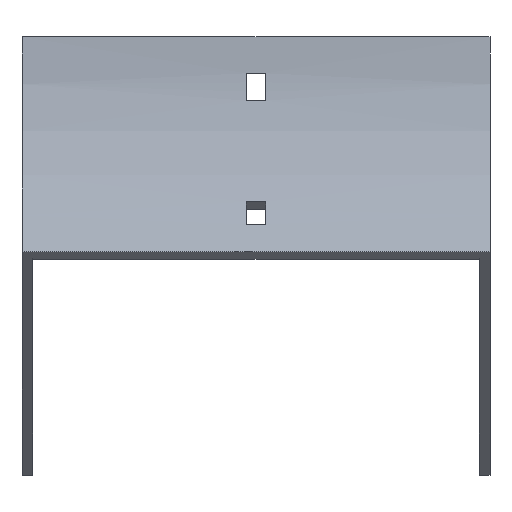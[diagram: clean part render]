
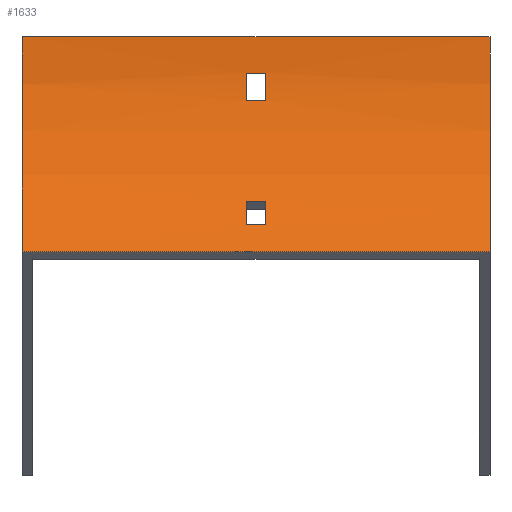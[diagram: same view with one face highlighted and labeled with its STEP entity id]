
A CAD part, front view. The second image highlights one B-rep face of the part: STEP entity #1633.
In plain terms, the highlighted cylindrical face has radius 100 mm (diameter 200 mm), a partial arc.
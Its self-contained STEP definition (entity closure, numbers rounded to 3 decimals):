
#17 = VERTEX_POINT ( 'NONE', #381 ) ;
#24 = CARTESIAN_POINT ( 'NONE',  ( 3.25, -16.017, -54.285 ) ) ;
#26 = DIRECTION ( 'NONE',  ( 0., 0., 1. ) ) ;
#28 = EDGE_LOOP ( 'NONE', ( #1114, #1668, #993, #631 ) ) ;
#49 = LINE ( 'NONE', #1105, #1319 ) ;
#53 = DIRECTION ( 'NONE',  ( -1., 0., 0. ) ) ;
#91 = VECTOR ( 'NONE', #442, 1000. ) ;
#117 = AXIS2_PLACEMENT_3D ( 'NONE', #992, #53, #26 ) ;
#160 = AXIS2_PLACEMENT_3D ( 'NONE', #1165, #1670, #1652 ) ;
#172 = DIRECTION ( 'NONE',  ( 0., 0., 1. ) ) ;
#178 = DIRECTION ( 'NONE',  ( 0., 0., 1. ) ) ;
#182 = CARTESIAN_POINT ( 'NONE',  ( -3.25, -0.723, -12. ) ) ;
#183 = EDGE_CURVE ( 'NONE', #902, #579, #327, .T. ) ;
#190 = VECTOR ( 'NONE', #434, 1000. ) ;
#198 = EDGE_LOOP ( 'NONE', ( #207, #1325, #739, #1233 ) ) ;
#207 = ORIENTED_EDGE ( 'NONE', *, *, #379, .T. ) ;
#209 = FACE_BOUND ( 'NONE', #28, .T. ) ;
#216 = CYLINDRICAL_SURFACE ( 'NONE', #1272, 100. ) ;
#258 = EDGE_CURVE ( 'NONE', #1256, #1393, #49, .T. ) ;
#275 = VECTOR ( 'NONE', #941, 1000. ) ;
#281 = ORIENTED_EDGE ( 'NONE', *, *, #258, .F. ) ;
#297 = CARTESIAN_POINT ( 'NONE',  ( 77., -29.289, -70.711 ) ) ;
#327 = CIRCLE ( 'NONE', #160, 100. ) ;
#331 = AXIS2_PLACEMENT_3D ( 'NONE', #603, #1505, #753 ) ;
#340 = DIRECTION ( 'NONE',  ( -1., 0., 0. ) ) ;
#348 = FACE_BOUND ( 'NONE', #861, .T. ) ;
#355 = CARTESIAN_POINT ( 'NONE',  ( 3.25, -2.23, -21. ) ) ;
#379 = EDGE_CURVE ( 'NONE', #497, #17, #1321, .T. ) ;
#381 = CARTESIAN_POINT ( 'NONE',  ( -77., -29.289, -70.711 ) ) ;
#388 = VECTOR ( 'NONE', #1356, 1000. ) ;
#400 = EDGE_CURVE ( 'NONE', #837, #17, #843, .T. ) ;
#406 = LINE ( 'NONE', #1469, #275 ) ;
#421 = CARTESIAN_POINT ( 'NONE',  ( 77., -100., 0. ) ) ;
#434 = DIRECTION ( 'NONE',  ( -1., 0., 0. ) ) ;
#440 = CARTESIAN_POINT ( 'NONE',  ( 77., -100., 0. ) ) ;
#442 = DIRECTION ( 'NONE',  ( -1., 0., 0. ) ) ;
#451 = DIRECTION ( 'NONE',  ( 0., 0., -1. ) ) ;
#489 = CARTESIAN_POINT ( 'NONE',  ( -3.25, -16.017, -54.285 ) ) ;
#497 = VERTEX_POINT ( 'NONE', #1169 ) ;
#535 = VERTEX_POINT ( 'NONE', #489 ) ;
#539 = LINE ( 'NONE', #1612, #91 ) ;
#579 = VERTEX_POINT ( 'NONE', #355 ) ;
#587 = DIRECTION ( 'NONE',  ( -1., 0., 0. ) ) ;
#603 = CARTESIAN_POINT ( 'NONE',  ( -3.25, -100., 0. ) ) ;
#615 = ORIENTED_EDGE ( 'NONE', *, *, #948, .F. ) ;
#631 = ORIENTED_EDGE ( 'NONE', *, *, #183, .T. ) ;
#669 = VERTEX_POINT ( 'NONE', #1068 ) ;
#690 = CIRCLE ( 'NONE', #331, 100. ) ;
#710 = FACE_OUTER_BOUND ( 'NONE', #198, .T. ) ;
#739 = ORIENTED_EDGE ( 'NONE', *, *, #1570, .F. ) ;
#753 = DIRECTION ( 'NONE',  ( 0., 0., 1. ) ) ;
#757 = VERTEX_POINT ( 'NONE', #182 ) ;
#837 = VERTEX_POINT ( 'NONE', #1410 ) ;
#843 = LINE ( 'NONE', #297, #190 ) ;
#857 = EDGE_CURVE ( 'NONE', #669, #757, #690, .T. ) ;
#861 = EDGE_LOOP ( 'NONE', ( #615, #1593, #1466, #281 ) ) ;
#892 = CARTESIAN_POINT ( 'NONE',  ( -3.25, -100., 0. ) ) ;
#902 = VERTEX_POINT ( 'NONE', #1012 ) ;
#917 = AXIS2_PLACEMENT_3D ( 'NONE', #421, #1349, #172 ) ;
#941 = DIRECTION ( 'NONE',  ( -1., 0., 0. ) ) ;
#948 = EDGE_CURVE ( 'NONE', #535, #1256, #1248, .T. ) ;
#992 = CARTESIAN_POINT ( 'NONE',  ( -77., -100., 0. ) ) ;
#993 = ORIENTED_EDGE ( 'NONE', *, *, #1610, .T. ) ;
#1012 = CARTESIAN_POINT ( 'NONE',  ( 3.25, -0.723, -12. ) ) ;
#1020 = VERTEX_POINT ( 'NONE', #1314 ) ;
#1068 = CARTESIAN_POINT ( 'NONE',  ( -3.25, -2.23, -21. ) ) ;
#1081 = DIRECTION ( 'NONE',  ( 1., 0., 0. ) ) ;
#1086 = VECTOR ( 'NONE', #1234, 1000. ) ;
#1104 = LINE ( 'NONE', #1365, #388 ) ;
#1105 = CARTESIAN_POINT ( 'NONE',  ( 77., -21.315, -61.714 ) ) ;
#1114 = ORIENTED_EDGE ( 'NONE', *, *, #1545, .T. ) ;
#1122 = VERTEX_POINT ( 'NONE', #24 ) ;
#1140 = AXIS2_PLACEMENT_3D ( 'NONE', #1587, #1485, #178 ) ;
#1165 = CARTESIAN_POINT ( 'NONE',  ( 3.25, -100., 0. ) ) ;
#1169 = CARTESIAN_POINT ( 'NONE',  ( -77., 0., 0. ) ) ;
#1205 = EDGE_CURVE ( 'NONE', #1020, #497, #406, .T. ) ;
#1225 = EDGE_CURVE ( 'NONE', #1122, #535, #539, .T. ) ;
#1233 = ORIENTED_EDGE ( 'NONE', *, *, #1205, .T. ) ;
#1234 = DIRECTION ( 'NONE',  ( -1., 0., 0. ) ) ;
#1248 = CIRCLE ( 'NONE', #1682, 100. ) ;
#1256 = VERTEX_POINT ( 'NONE', #1654 ) ;
#1272 = AXIS2_PLACEMENT_3D ( 'NONE', #440, #340, #1621 ) ;
#1314 = CARTESIAN_POINT ( 'NONE',  ( 77., 0., 0. ) ) ;
#1319 = VECTOR ( 'NONE', #1081, 1000. ) ;
#1320 = CARTESIAN_POINT ( 'NONE',  ( 77., -2.23, -21. ) ) ;
#1321 = CIRCLE ( 'NONE', #117, 100. ) ;
#1325 = ORIENTED_EDGE ( 'NONE', *, *, #400, .F. ) ;
#1349 = DIRECTION ( 'NONE',  ( -1., 0., 0. ) ) ;
#1356 = DIRECTION ( 'NONE',  ( 1., 0., 0. ) ) ;
#1365 = CARTESIAN_POINT ( 'NONE',  ( 77., -0.723, -12. ) ) ;
#1393 = VERTEX_POINT ( 'NONE', #1407 ) ;
#1407 = CARTESIAN_POINT ( 'NONE',  ( 3.25, -21.315, -61.714 ) ) ;
#1410 = CARTESIAN_POINT ( 'NONE',  ( 77., -29.289, -70.711 ) ) ;
#1444 = LINE ( 'NONE', #1320, #1086 ) ;
#1466 = ORIENTED_EDGE ( 'NONE', *, *, #1608, .F. ) ;
#1469 = CARTESIAN_POINT ( 'NONE',  ( 77., 0., 0. ) ) ;
#1485 = DIRECTION ( 'NONE',  ( 1., 0., 0. ) ) ;
#1502 = CIRCLE ( 'NONE', #1140, 100. ) ;
#1505 = DIRECTION ( 'NONE',  ( 1., 0., 0. ) ) ;
#1545 = EDGE_CURVE ( 'NONE', #579, #669, #1444, .T. ) ;
#1570 = EDGE_CURVE ( 'NONE', #1020, #837, #1642, .T. ) ;
#1587 = CARTESIAN_POINT ( 'NONE',  ( 3.25, -100., 0. ) ) ;
#1593 = ORIENTED_EDGE ( 'NONE', *, *, #1225, .F. ) ;
#1608 = EDGE_CURVE ( 'NONE', #1393, #1122, #1502, .T. ) ;
#1610 = EDGE_CURVE ( 'NONE', #757, #902, #1104, .T. ) ;
#1612 = CARTESIAN_POINT ( 'NONE',  ( 77., -16.017, -54.285 ) ) ;
#1621 = DIRECTION ( 'NONE',  ( 0., 0., 1. ) ) ;
#1633 = ADVANCED_FACE ( 'NONE', ( #710, #209, #348 ), #216, .F. ) ;
#1642 = CIRCLE ( 'NONE', #917, 100. ) ;
#1652 = DIRECTION ( 'NONE',  ( 0., 0., -1. ) ) ;
#1654 = CARTESIAN_POINT ( 'NONE',  ( -3.25, -21.315, -61.714 ) ) ;
#1668 = ORIENTED_EDGE ( 'NONE', *, *, #857, .T. ) ;
#1670 = DIRECTION ( 'NONE',  ( -1., 0., 0. ) ) ;
#1682 = AXIS2_PLACEMENT_3D ( 'NONE', #892, #587, #451 ) ;
